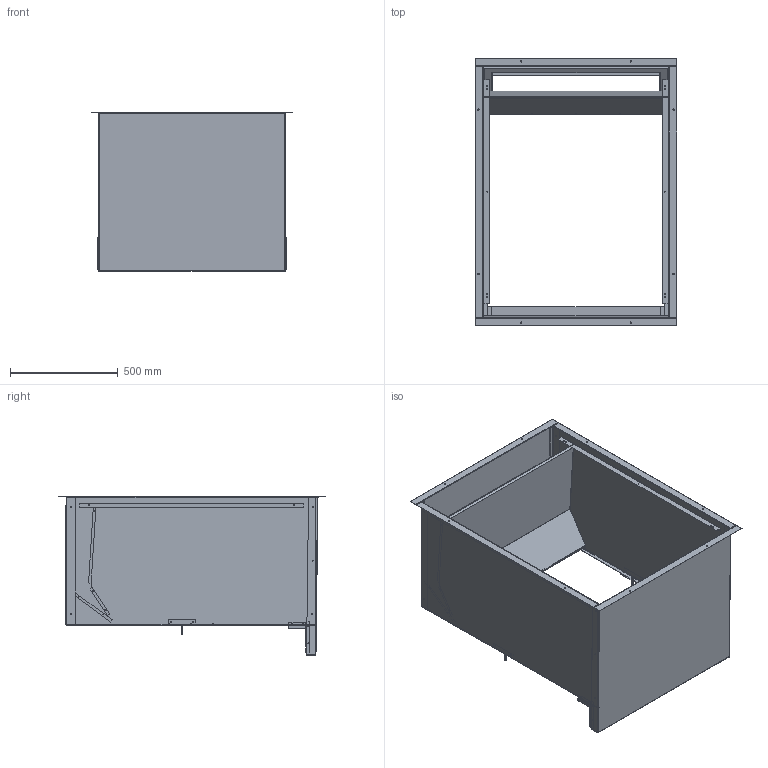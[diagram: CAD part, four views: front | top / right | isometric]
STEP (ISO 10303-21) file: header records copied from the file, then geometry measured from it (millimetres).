
FILE_DESCRIPTION (( 'STEP AP203' ), '1' );
FILE_NAME ('QWS42A-23.STEP', '2014-03-17T14:32:16', ( 'generic' ), ( 'Hewlett-Packard Company' ), 'SwSTEP 2.0', 'SolidWorks 2014', '' );
FILE_SCHEMA (( 'CONFIG_CONTROL_DESIGN' ));
Length unit declared in the file: inch
Products named in the file (12): 110-078; 110-084; QWS42A-23; 104-1060; 1012-036; 130-120; 136-449; 136-450; 120-351; 104-988; 110-077; 110-085
Assembly tree (14 placements, depth 2):
  QWS42A-23
    104-988  x2
    110-085
    110-084
    104-1060  x2
    1012-036  x2
    130-120
    136-449
    136-450
    120-351
    110-077
    110-078
Bounding box: 937.19 x 1243.68 x 738.03 mm (x, y, z)
Volume: 4406758.2 mm3; surface area: 7383371.2 mm2
Topology: 14 solids, 14 shells, 1071 faces, 2529 edges, 1468 vertices
Faces by surface type: plane 458, cylinder 347, cone 236, bspline 30
Entity records: 28537 total; most frequent: CARTESIAN_POINT 6005, DIRECTION 4491, ORIENTED_EDGE 4292, EDGE_CURVE 2146, AXIS2_PLACEMENT_3D 1599, VECTOR 1293, LINE 1293, VERTEX_POINT 1259
